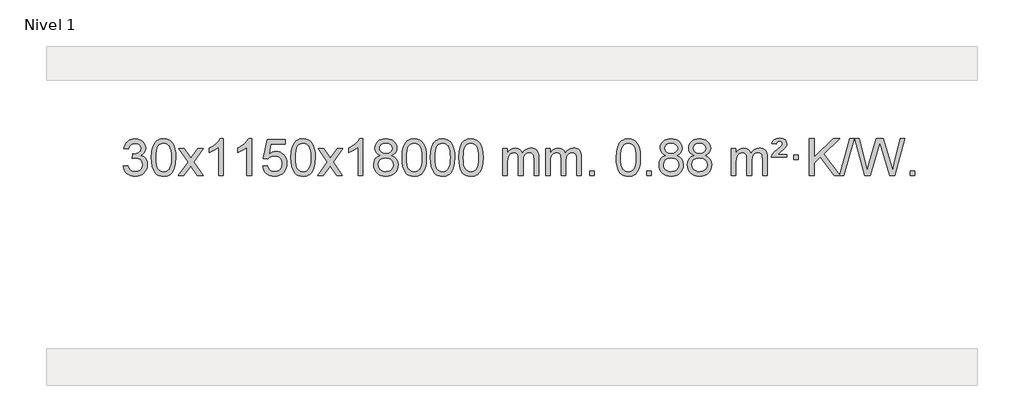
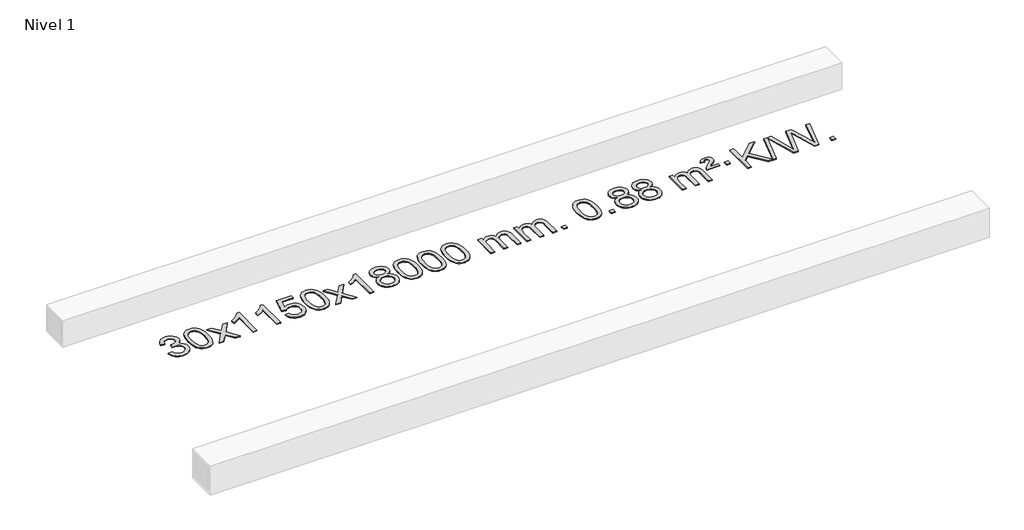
# One storey, part 4 of 4: 1 proxy.
"""IFC4 building model written with IfcOpenShell, lengths in millimetres."""

import ifcopenshell
import ifcopenshell.guid

model = None  # the IFC model being written
_history = None  # IfcOwnerHistory: only IFC2X3 demands one
_inside = {}  # id of a spatial element -> (the spatial element, [elements in it])
_under = {}  # id of a project, library or spatial element -> (it, [spatial elements below it])
_declared = {}  # id of a project -> (the project, [libraries it declares])
_typed = {}  # id of a type object -> (the type object, [elements of that type])
_made_of = {}  # id of a material, layer set ... -> (it, [elements and type objects made of it])


def new_model(schema):
    """Start an empty IFC model of exactly this schema.

    Asked for "IFC4X3", IfcOpenShell would pick the latest addendum, in which some entities
    have other attributes; the version numbers below select the first issue.
    IFC2X3 requires an IfcOwnerHistory on every rooted entity: one is made here for all.
    """
    global model, _history
    if schema == "IFC4X3":
        model = ifcopenshell.file(schema_version=(4, 3, 0, 0))
    else:
        model = ifcopenshell.file(schema=schema)
    _inside.clear()
    _under.clear()
    _declared.clear()
    _typed.clear()
    _made_of.clear()
    _history = None
    if model.schema == "IFC2X3":
        org = make("IfcOrganization", Name="unknown")
        user = make(
            "IfcPersonAndOrganization",
            ThePerson=make("IfcPerson", FamilyName="unknown"),
            TheOrganization=org,
        )
        app = make(
            "IfcApplication",
            ApplicationDeveloper=org,
            Version="unknown",
            ApplicationFullName="unknown",
            ApplicationIdentifier="unknown",
        )
        _history = make(
            "IfcOwnerHistory",
            OwningUser=user,
            OwningApplication=app,
            ChangeAction="ADDED",
            CreationDate=0,
        )
    return model


def make(cls, **values):
    """One entity of the class cls with the attributes given. An attribute that is None is left unset."""
    return model.create_entity(
        cls, **{name: value for name, value in values.items() if value is not None}
    )


def rooted(cls, **values):
    """An entity with a GlobalId (a new one), such as an element, a storey or a relation."""
    return make(cls, GlobalId=ifcopenshell.guid.new(), OwnerHistory=_history, **values)


def si_unit(unit_type, name, prefix=None):
    """IfcSIUnit, for example si_unit("LENGTHUNIT", "METRE", prefix="MILLI")."""
    return make("IfcSIUnit", UnitType=unit_type, Prefix=prefix, Name=name)


def assignment(units):
    """IfcUnitAssignment: the units of a project."""
    return None if units is None else make("IfcUnitAssignment", Units=units)


def point(xyz):
    """IfcCartesianPoint."""
    return None if xyz is None else make("IfcCartesianPoint", Coordinates=xyz)


def direction(xyz):
    """IfcDirection."""
    return None if xyz is None else make("IfcDirection", DirectionRatios=xyz)


def frame(location, z_axis=None, x_axis=None):
    """IfcAxis2Placement3D, a coordinate frame: its origin and axes. An axis left out is left unset."""
    return make(
        "IfcAxis2Placement3D",
        Location=point(location),
        Axis=direction(z_axis),
        RefDirection=direction(x_axis),
    )


def origin():
    """The frame at (0, 0, 0) with its axes left unset."""
    return frame((0.0, 0.0, 0.0))


def origin_with_axes():
    """The frame at (0, 0, 0) with the z axis (0, 0, 1) and the x axis (1, 0, 0) written out."""
    return frame((0.0, 0.0, 0.0), z_axis=(0.0, 0.0, 1.0), x_axis=(1.0, 0.0, 0.0))


def place(relative_to, where):
    """IfcLocalPlacement: puts the frame where relative to a parent placement (None: the world)."""
    return make(
        "IfcLocalPlacement", PlacementRelTo=relative_to, RelativePlacement=where
    )


def context(
    kind, dimensions, precision=None, world=None, true_north=None, identifier=None
):
    """IfcGeometricRepresentationContext, for example the 3D "Model" context."""
    return make(
        "IfcGeometricRepresentationContext",
        ContextIdentifier=identifier,
        ContextType=kind,
        CoordinateSpaceDimension=dimensions,
        Precision=precision,
        WorldCoordinateSystem=world,
        TrueNorth=true_north,
    )


def project(units=None, contexts=None):
    """IfcProject with its units and contexts."""
    return rooted(
        "IfcProject",
        Name="project",
        RepresentationContexts=contexts,
        UnitsInContext=assignment(units),
    )


def spatial(cls, under=None, at=None, **own):
    """A site, building, storey or space (cls), placed at a placement, below another one or the project."""
    s = rooted(cls, ObjectPlacement=at, **own)
    if under is not None:
        _under.setdefault(under.id(), (under, []))[1].append(s)
    return s


def polyline(points):
    """IfcPolyline through the points."""
    return make("IfcPolyline", Points=[point(p) for p in points])


def outline(outer, holes=None, kind="AREA"):
    """IfcArbitraryClosedProfileDef: a profile drawn as a closed curve; with holes, ...WithVoids."""
    if holes is None:
        return make("IfcArbitraryClosedProfileDef", ProfileType=kind, OuterCurve=outer)
    return make(
        "IfcArbitraryProfileDefWithVoids",
        ProfileType=kind,
        OuterCurve=outer,
        InnerCurves=holes,
    )


def extrude(swept, where, along, depth):
    """IfcExtrudedAreaSolid: the profile swept, set in the frame where, extruded along a direction by depth."""
    return make(
        "IfcExtrudedAreaSolid",
        SweptArea=swept,
        Position=where,
        ExtrudedDirection=direction(along),
        Depth=depth,
    )


def shape(context_of_items, identifier, shape_type, items):
    """IfcShapeRepresentation: the items that make up one representation, for example the "Body"."""
    return make(
        "IfcShapeRepresentation",
        ContextOfItems=context_of_items,
        RepresentationIdentifier=identifier,
        RepresentationType=shape_type,
        Items=items,
    )


def made_of(thing, what):
    """Note that an element or type object is made of a material, layer set ...; save() writes the relation."""
    if what is not None:
        _made_of.setdefault(what.id(), (what, []))[1].append(thing)
    return thing


def element(
    cls,
    number,
    at=None,
    inside=None,
    cuts=None,
    type_object=None,
    material=None,
    context=None,
    identifier="Body",
    shape_type=None,
    held_by="IfcProductDefinitionShape",
    body=None,
    shapes=None,
    **own,
):
    """One element of the class cls, such as IfcWall. Its Tag is "e" and its number.

    at: its placement. inside: the storey or other place that contains it. cuts: it is an
    opening in that element (IfcRelVoidsElement). A single representation is given by context,
    identifier, shape_type and body (its items); several are given by shapes. held_by: the class
    of the entity that holds the representations. save() writes the other relations.
    """
    e = rooted(cls, Tag="e%d" % number, ObjectPlacement=at, **own)
    if body is not None:
        shapes = [shape(context, identifier, shape_type, body)]
    if shapes is not None:
        e.Representation = make(held_by, Representations=shapes)
    if inside is not None:
        _inside.setdefault(inside.id(), (inside, []))[1].append(e)
    if cuts is not None:
        rooted(
            "IfcRelVoidsElement", RelatingBuildingElement=cuts, RelatedOpeningElement=e
        )
    if type_object is not None:
        _typed.setdefault(type_object.id(), (type_object, []))[1].append(e)
    return made_of(e, material)


def aggregate(whole, parts):
    """IfcRelAggregates: a whole, such as a stair, and the parts it consists of."""
    return rooted("IfcRelAggregates", RelatingObject=whole, RelatedObjects=parts)


def save(model, path):
    """Write the relations noted so far, then the file.

    IfcRelAggregates (storeys below a building ...), IfcRelContainedInSpatialStructure (elements
    in a storey), IfcRelDefinesByType, IfcRelAssociatesMaterial and IfcRelDeclares: one each for
    every whole, place, type object, material and project.
    """
    for whole, parts in _under.values():
        aggregate(whole, parts)
    for where, things in _inside.values():
        rooted(
            "IfcRelContainedInSpatialStructure",
            RelatedElements=things,
            RelatingStructure=where,
        )
    for kind, things in _typed.values():
        rooted("IfcRelDefinesByType", RelatedObjects=things, RelatingType=kind)
    for what, things in _made_of.values():
        rooted("IfcRelAssociatesMaterial", RelatedObjects=things, RelatingMaterial=what)
    for by, libraries in _declared.values():
        rooted("IfcRelDeclares", RelatingContext=by, RelatedDefinitions=libraries)
    model.write(path)


model = new_model("IFC4")

# Units and contexts
model_context = context("Model", 3, world=origin())
ifc_project = project(units=[si_unit("LENGTHUNIT", "METRE", prefix="MILLI")], contexts=[model_context])

# Site, building, storey
site = spatial("IfcSite", under=ifc_project)
building = spatial("IfcBuilding", under=site)
storey = spatial("IfcBuildingStorey", under=building, Name="Nivel 1", Elevation=0.0)

# Proxy
placement = place(None, origin())
element("IfcBuildingElementProxy", 1, Name="Texto de modelo 1", ObjectType="Texto de modelo 1", at=placement, inside=storey, context=model_context, shape_type="SweptSolid", body=[
    extrude(outline(polyline([(-19164.9669637, 2390.4100258), (-19114.7388086, 2396.6885452), (-19103.4938823, 2365.12427), (-19087.0250316, 2343.8116398), (-19064.5229163, 2331.6715339), (-19035.1781958, 2327.624832), (-19000.744441, 2333.1921129), (-18986.4706196, 2340.1512139), (-18974.1588355, 2349.8939554), (-18957.1626873, 2374.8118292), (-18951.4973046, 2405.0272038), (-18957.1136364, 2433.7097367), (-18973.9626318, 2456.9721415), (-18999.4691168, 2472.3863971), (-19031.0579174, 2477.5244823), (-19066.2764871, 2472.0307778), (-19060.6846808, 2522.2589329), (-19052.6403278, 2521.6703217), (-19022.5475806, 2525.2755653), (-18995.643144, 2536.0912959), (-18984.569896, 2544.270539), (-18976.6604331, 2554.3872938), (-18971.9147553, 2566.4415605), (-18970.3328628, 2580.4333391), (-18974.919125, 2602.1261141), (-18988.6779116, 2619.7231362), (-19009.6717108, 2631.3849954), (-19035.9630107, 2635.2722818), (-19062.3033616, 2631.3482072), (-19083.836721, 2619.5759834), (-19099.5575449, 2599.9556103), (-19108.4602892, 2572.487088), (-19158.6884443, 2578.7656074), (-19152.7348873, 2602.7453821), (-19143.8995881, 2623.86794), (-19132.1825465, 2642.133281), (-19117.5837627, 2657.5414053), (-19100.5630891, 2669.7734816), (-19081.5803781, 2678.510679), (-19060.6356298, 2683.7529974), (-19037.7288443, 2685.5004369), (-19006.1523064, 2682.0546089), (-18977.1509424, 2671.7171248), (-18952.6990525, 2655.4076897), (-18934.7709366, 2634.0460085), (-18923.7712649, 2609.434703), (-18920.1047077, 2583.376395), (-18923.5873239, 2559.0961834), (-18934.0351726, 2537.0723146), (-18951.3011009, 2518.3103328), (-18975.237956, 2503.8157822), (-18943.7963082, 2491.1115907), (-18920.4971152, 2469.4801293), (-18906.0761409, 2440.0986207), (-18901.2691495, 2404.144287), (-18903.6726452, 2378.6623275), (-18910.8831323, 2355.1914562), (-18922.9006109, 2333.7316731), (-18939.7250808, 2314.2829783), (-18960.2222393, 2298.1452214), (-18983.2577835, 2286.6182523), (-19008.8317136, 2279.7020708), (-19036.9440294, 2277.3966769), (-19062.3524125, 2279.3648456), (-19085.5044527, 2285.2693516), (-19106.40015, 2295.110195), (-19125.0395045, 2308.8873757), (-19140.6683579, 2325.7915534), (-19152.5325522, 2345.0133876), (-19160.6320875, 2366.5528785), (-19164.9669637, 2390.4100258)])), origin_with_axes(), (0.0, 0.0, 1.0), 10.0),
    extrude(outline(polyline([(-18857.3195138, 2481.350455), (-18853.6284312, 2545.6684905), (-18842.5551831, 2596.9635034), (-18824.2101343, 2636.0203086), (-18812.3520713, 2651.2536888), (-18798.7036493, 2663.6237209), (-18783.218883, 2673.1947842), (-18765.8517871, 2680.0312579), (-18725.4706068, 2685.5004369), (-18694.5194682, 2682.2630753), (-18666.8056913, 2672.5509907), (-18643.6291256, 2656.7443276), (-18626.2896209, 2635.2232309), (-18613.1930218, 2608.1716415), (-18602.7451732, 2575.7735005), (-18595.9025681, 2534.6320307), (-18593.6216997, 2481.350455), (-18597.2759942, 2417.4003016), (-18608.2388776, 2366.227916), (-18626.4735619, 2327.1343227), (-18638.3040337, 2311.8549571), (-18651.9432587, 2299.4205457), (-18667.4464191, 2289.7851031), (-18684.8686972, 2282.9026441), (-18725.4706068, 2277.3966769), (-18753.1353328, 2279.7879099), (-18777.6607992, 2286.9616088), (-18799.0470058, 2298.9177736), (-18817.2939528, 2315.6564044), (-18834.8051357, 2345.9146985), (-18847.3131236, 2383.6164717), (-18854.8179163, 2428.7617238), (-18857.3195138, 2481.350455)]), holes=[polyline([(-18807.0913588, 2481.4485569), (-18805.6198308, 2437.7840298), (-18801.2052468, 2402.4397671), (-18793.8476069, 2375.4157689), (-18783.5469111, 2356.7120351), (-18771.0879742, 2343.9863837), (-18757.2556112, 2334.8966328), (-18742.049822, 2329.4427822), (-18725.4706068, 2327.624832), (-18708.8913915, 2329.4489136), (-18693.6856024, 2334.9211582), (-18679.8532394, 2344.041566), (-18667.3943025, 2356.8101369), (-18657.0936066, 2375.5445276), (-18649.7359667, 2402.5623944), (-18645.3213828, 2437.8637375), (-18643.8498548, 2481.4485569), (-18645.2723318, 2523.9573215), (-18649.539763, 2558.6792504), (-18656.6521482, 2585.6143438), (-18666.6094875, 2604.7626017), (-18678.859958, 2618.1105868), (-18692.8517365, 2627.6448618), (-18708.5848232, 2633.3654268), (-18726.059218, 2635.2722818), (-18742.5525941, 2633.5922874), (-18757.5008658, 2628.5523041), (-18770.9040332, 2620.1523318), (-18782.7620962, 2608.3923707), (-18793.4061486, 2587.5457243), (-18801.0090431, 2559.4395399), (-18805.5707799, 2524.0738174), (-18807.0913588, 2481.4485569)])]), origin_with_axes(), (0.0, 0.0, 1.0), 10.0),
    extrude(outline(polyline([(-18568.5076222, 2283.6751963), (-18461.1841814, 2432.0052168), (-18562.2291028, 2578.7656074), (-18501.7983537, 2578.7656074), (-18453.0417266, 2508.1322643), (-18430.2820938, 2474.7776301), (-18410.5636189, 2502.0499486), (-18355.0379631, 2578.7656074), (-18294.607214, 2578.7656074), (-18400.7534324, 2432.0052168), (-18298.5312886, 2283.6751963), (-18358.9620377, 2283.6751963), (-18420.4719073, 2372.8497919), (-18431.7536218, 2389.1347016), (-18508.0768731, 2283.6751963), (-18568.5076222, 2283.6751963)])), origin_with_axes(), (0.0, 0.0, 1.0), 10.0),
    extrude(outline(polyline([(-18078.7831102, 2283.6751963), (-18129.0112653, 2283.6751963), (-18129.0112653, 2596.8163506), (-18149.980539, 2579.8569906), (-18176.59067, 2562.9221561), (-18229.4675754, 2537.5628239), (-18229.4675754, 2585.0441268), (-18190.0183628, 2606.5039098), (-18155.8421254, 2632.0349203), (-18128.9009007, 2659.1846115), (-18111.1567258, 2685.5004369), (-18078.7831102, 2685.5004369), (-18078.7831102, 2283.6751963)])), origin_with_axes(), (0.0, 0.0, 1.0), 10.0),
    extrude(outline(polyline([(-17771.1356604, 2283.6751963), (-17821.3638154, 2283.6751963), (-17821.3638154, 2596.8163506), (-17842.3330892, 2579.8569906), (-17868.9432201, 2562.9221561), (-17921.8201256, 2537.5628239), (-17921.8201256, 2585.0441268), (-17882.370913, 2606.5039098), (-17848.1946756, 2632.0349203), (-17821.2534508, 2659.1846115), (-17803.5092759, 2685.5004369), (-17771.1356604, 2685.5004369), (-17771.1356604, 2283.6751963)])), origin_with_axes(), (0.0, 0.0, 1.0), 10.0),
    extrude(outline(polyline([(-17651.8437921, 2390.4100258), (-17601.615637, 2396.6885452), (-17592.3940616, 2366.5344844), (-17576.3053557, 2344.9398112), (-17553.4230956, 2331.9535768), (-17523.8208577, 2327.624832), (-17504.690994, 2329.1300825), (-17487.8174731, 2333.645834), (-17473.2002952, 2341.1720865), (-17460.8394602, 2351.7088399), (-17451.0108795, 2364.7349283), (-17443.9904648, 2379.7291852), (-17438.374133, 2415.6222052), (-17443.6348455, 2449.4182979), (-17450.2107362, 2463.3365), (-17459.4169831, 2475.2681394), (-17471.2842431, 2484.8392026), (-17485.8431731, 2491.6756764), (-17523.0360428, 2497.1448554), (-17547.4020936, 2494.9620889), (-17567.1328313, 2488.4137894), (-17582.8904434, 2478.3828736), (-17595.3371176, 2465.7522585), (-17645.5652727, 2472.0307778), (-17601.615637, 2679.2219175), (-17406.9815361, 2679.2219175), (-17406.9815361, 2628.9937624), (-17561.0014647, 2628.9937624), (-17582.4857732, 2518.3348583), (-17564.7599924, 2531.0390499), (-17546.605016, 2540.1134724), (-17528.0208438, 2545.5581259), (-17509.0074761, 2547.3730104), (-17484.5463891, 2545.1227989), (-17462.0779962, 2538.3721643), (-17441.6022975, 2527.1211066), (-17423.1192929, 2511.3696259), (-17407.8184676, 2492.0803466), (-17396.8893067, 2470.2158933), (-17390.3318101, 2445.7762661), (-17388.1459779, 2418.7614649), (-17390.1141466, 2392.7399451), (-17396.0186526, 2368.5333099), (-17405.859496, 2346.1415591), (-17419.6366767, 2325.5646928), (-17440.5078486, 2304.4911859), (-17464.8616366, 2289.4386809), (-17492.6980409, 2280.4071779), (-17524.0170615, 2277.3966769), (-17549.9374137, 2279.3311231), (-17573.350037, 2285.1344616), (-17594.2549314, 2294.8066923), (-17612.6520968, 2308.3478154), (-17627.9590535, 2325.0833805), (-17639.5933216, 2344.3389373), (-17647.5549011, 2366.1144857), (-17651.8437921, 2390.4100258)])), origin_with_axes(), (0.0, 0.0, 1.0), 10.0),
    extrude(outline(polyline([(-17344.1963422, 2481.350455), (-17340.5052595, 2545.6684905), (-17329.4320115, 2596.9635034), (-17311.0869627, 2636.0203086), (-17299.2288997, 2651.2536888), (-17285.5804777, 2663.6237209), (-17270.0957113, 2673.1947842), (-17252.7286155, 2680.0312579), (-17212.3474351, 2685.5004369), (-17181.3962966, 2682.2630753), (-17153.6825196, 2672.5509907), (-17130.505954, 2656.7443276), (-17113.1664492, 2635.2232309), (-17100.0698502, 2608.1716415), (-17089.6220016, 2575.7735005), (-17082.7793964, 2534.6320307), (-17080.4985281, 2481.350455), (-17084.1528226, 2417.4003016), (-17095.115706, 2366.227916), (-17113.3503902, 2327.1343227), (-17125.1808621, 2311.8549571), (-17138.820087, 2299.4205457), (-17154.3232475, 2289.7851031), (-17171.7455256, 2282.9026441), (-17212.3474351, 2277.3966769), (-17240.0121612, 2279.7879099), (-17264.5376275, 2286.9616088), (-17285.9238342, 2298.9177736), (-17304.1707811, 2315.6564044), (-17321.6819641, 2345.9146985), (-17334.1899519, 2383.6164717), (-17341.6947446, 2428.7617238), (-17344.1963422, 2481.350455)]), holes=[polyline([(-17293.9681871, 2481.4485569), (-17292.4966592, 2437.7840298), (-17288.0820752, 2402.4397671), (-17280.7244353, 2375.4157689), (-17270.4237395, 2356.7120351), (-17257.9648025, 2343.9863837), (-17244.1324395, 2334.8966328), (-17228.9266504, 2329.4427822), (-17212.3474351, 2327.624832), (-17195.7682199, 2329.4489136), (-17180.5624308, 2334.9211582), (-17166.7300677, 2344.041566), (-17154.2711308, 2356.8101369), (-17143.970435, 2375.5445276), (-17136.6127951, 2402.5623944), (-17132.1982111, 2437.8637375), (-17130.7266831, 2481.4485569), (-17132.1491602, 2523.9573215), (-17136.4165913, 2558.6792504), (-17143.5289766, 2585.6143438), (-17153.4863159, 2604.7626017), (-17165.7367864, 2618.1105868), (-17179.7285649, 2627.6448618), (-17195.4616516, 2633.3654268), (-17212.9360463, 2635.2722818), (-17229.4294225, 2633.5922874), (-17244.3776942, 2628.5523041), (-17257.7808616, 2620.1523318), (-17269.6389245, 2608.3923707), (-17280.2829769, 2587.5457243), (-17287.8858715, 2559.4395399), (-17292.4476082, 2524.0738174), (-17293.9681871, 2481.4485569)])]), origin_with_axes(), (0.0, 0.0, 1.0), 10.0),
    extrude(outline(polyline([(-17055.3844505, 2283.6751963), (-16948.0610098, 2432.0052168), (-17049.1059312, 2578.7656074), (-16988.6751821, 2578.7656074), (-16939.918555, 2508.1322643), (-16917.1589222, 2474.7776301), (-16897.4404473, 2502.0499486), (-16841.9147915, 2578.7656074), (-16781.4840424, 2578.7656074), (-16887.6302607, 2432.0052168), (-16785.408117, 2283.6751963), (-16845.8388661, 2283.6751963), (-16907.3487357, 2372.8497919), (-16918.6304502, 2389.1347016), (-16994.9537015, 2283.6751963), (-17055.3844505, 2283.6751963)])), origin_with_axes(), (0.0, 0.0, 1.0), 10.0),
    extrude(outline(polyline([(-16565.6599386, 2283.6751963), (-16615.8880936, 2283.6751963), (-16615.8880936, 2596.8163506), (-16636.8573674, 2579.8569906), (-16663.4674983, 2562.9221561), (-16716.3444038, 2537.5628239), (-16716.3444038, 2585.0441268), (-16676.8951912, 2606.5039098), (-16642.7189538, 2632.0349203), (-16615.777729, 2659.1846115), (-16598.0335541, 2685.5004369), (-16565.6599386, 2685.5004369), (-16565.6599386, 2283.6751963)])), origin_with_axes(), (0.0, 0.0, 1.0), 10.0),
    extrude(outline(polyline([(-16373.1840787, 2504.9930046), (-16400.0762525, 2518.2367564), (-16418.9485989, 2536.1893978), (-16430.0954233, 2558.4830467), (-16433.8110315, 2584.7498212), (-16431.7876805, 2605.2347169), (-16425.7176276, 2624.0150928), (-16415.6008727, 2641.0909487), (-16401.4374159, 2656.4622848), (-16383.9078388, 2669.1664763), (-16363.6927232, 2678.2408989), (-16340.792069, 2683.6855524), (-16315.2058762, 2685.5004369), (-16289.4970561, 2683.6426328), (-16266.4247237, 2678.0692206), (-16245.9888788, 2668.7802002), (-16228.1895216, 2655.7755717), (-16213.7685474, 2640.1037987), (-16203.4678516, 2622.8133449), (-16197.2874341, 2603.9042104), (-16195.2272949, 2583.376395), (-16198.8938521, 2557.9557492), (-16209.8935238, 2536.042245), (-16228.3489372, 2518.1999682), (-16254.3827197, 2504.9930046), (-16223.4683694, 2489.0637142), (-16200.966254, 2465.6051057), (-16187.2442556, 2435.7453504), (-16182.6702561, 2400.6126198), (-16184.9388617, 2375.559856), (-16191.7446787, 2352.5917567), (-16203.0877068, 2331.7083221), (-16218.9679463, 2312.9095522), (-16238.5515312, 2297.3726693), (-16261.0045956, 2286.2748957), (-16286.3271396, 2279.6162316), (-16314.5191632, 2277.3966769), (-16342.7111867, 2279.6254287), (-16368.0337307, 2286.3116839), (-16390.4867952, 2297.4554427), (-16410.0703801, 2313.056705), (-16425.9506195, 2331.9872993), (-16437.2936477, 2353.1190543), (-16444.0994646, 2376.4519698), (-16446.3680703, 2401.986046), (-16441.6101298, 2438.4799399), (-16427.3363084, 2468.4991107), (-16404.28237, 2491.0134888), (-16373.1840787, 2504.9930046)]), holes=[polyline([(-16383.5828764, 2583.2782932), (-16379.1315043, 2561.3525263), (-16365.7773878, 2543.8413433), (-16343.9129346, 2532.363425), (-16313.930552, 2528.5374523), (-16284.6471452, 2532.3388996), (-16263.1137857, 2543.7432414), (-16249.8700339, 2560.6658132), (-16245.45545, 2581.0219503), (-16250.0171867, 2602.1506395), (-16263.7023969, 2619.6250343), (-16285.530062, 2631.3604699), (-16314.5191632, 2635.2722818), (-16343.6922054, 2631.4463091), (-16365.4830822, 2619.9683908), (-16379.0579279, 2603.1439209), (-16383.5828764, 2583.2782932)]), polyline([(-16396.1399152, 2403.7518795), (-16394.0429878, 2384.5361766), (-16387.7522057, 2365.9336104), (-16376.1393974, 2349.7100144), (-16358.0763914, 2337.6312223), (-16336.4449301, 2330.1264296), (-16314.1267557, 2327.624832), (-16279.9382556, 2332.8855445), (-16266.044579, 2339.4614352), (-16254.2846178, 2348.6676821), (-16238.2449629, 2372.5677491), (-16232.8984112, 2402.1822497), (-16238.4166411, 2432.2995224), (-16254.9713309, 2456.7268868), (-16267.0501231, 2466.1691914), (-16281.2135799, 2472.9136946), (-16315.7944874, 2478.3092972), (-16349.5047409, 2472.987271), (-16363.2420678, 2466.3347383), (-16374.9008613, 2457.0211924), (-16390.8301517, 2433.0598118), (-16396.1399152, 2403.7518795)])]), origin_with_axes(), (0.0, 0.0, 1.0), 10.0),
    extrude(outline(polyline([(-16138.7206204, 2481.350455), (-16135.0295377, 2545.6684905), (-16123.9562897, 2596.9635034), (-16105.6112409, 2636.0203086), (-16093.7531779, 2651.2536888), (-16080.1047559, 2663.6237209), (-16064.6199895, 2673.1947842), (-16047.2528937, 2680.0312579), (-16006.8717134, 2685.5004369), (-15975.9205748, 2682.2630753), (-15948.2067979, 2672.5509907), (-15925.0302322, 2656.7443276), (-15907.6907275, 2635.2232309), (-15894.5941284, 2608.1716415), (-15884.1462798, 2575.7735005), (-15877.3036746, 2534.6320307), (-15875.0228063, 2481.350455), (-15878.6771008, 2417.4003016), (-15889.6399842, 2366.227916), (-15907.8746684, 2327.1343227), (-15919.7051403, 2311.8549571), (-15933.3443652, 2299.4205457), (-15948.8475257, 2289.7851031), (-15966.2698038, 2282.9026441), (-16006.8717134, 2277.3966769), (-16034.5364394, 2279.7879099), (-16059.0619057, 2286.9616088), (-16080.4481124, 2298.9177736), (-16098.6950593, 2315.6564044), (-16116.2062423, 2345.9146985), (-16128.7142302, 2383.6164717), (-16136.2190229, 2428.7617238), (-16138.7206204, 2481.350455)]), holes=[polyline([(-16088.4924653, 2481.4485569), (-16087.0209374, 2437.7840298), (-16082.6063534, 2402.4397671), (-16075.2487135, 2375.4157689), (-16064.9480177, 2356.7120351), (-16052.4890808, 2343.9863837), (-16038.6567177, 2334.8966328), (-16023.4509286, 2329.4427822), (-16006.8717134, 2327.624832), (-15990.2924981, 2329.4489136), (-15975.086709, 2334.9211582), (-15961.2543459, 2344.041566), (-15948.795409, 2356.8101369), (-15938.4947132, 2375.5445276), (-15931.1370733, 2402.5623944), (-15926.7224893, 2437.8637375), (-15925.2509614, 2481.4485569), (-15926.6734384, 2523.9573215), (-15930.9408695, 2558.6792504), (-15938.0532548, 2585.6143438), (-15948.0105941, 2604.7626017), (-15960.2610646, 2618.1105868), (-15974.2528431, 2627.6448618), (-15989.9859298, 2633.3654268), (-16007.4603245, 2635.2722818), (-16023.9537007, 2633.5922874), (-16038.9019724, 2628.5523041), (-16052.3051398, 2620.1523318), (-16064.1632027, 2608.3923707), (-16074.8072551, 2587.5457243), (-16082.4101497, 2559.4395399), (-16086.9718864, 2524.0738174), (-16088.4924653, 2481.4485569)])]), origin_with_axes(), (0.0, 0.0, 1.0), 10.0),
    extrude(outline(polyline([(-15831.0731706, 2481.350455), (-15827.3820879, 2545.6684905), (-15816.3088398, 2596.9635034), (-15797.963791, 2636.0203086), (-15786.105728, 2651.2536888), (-15772.457306, 2663.6237209), (-15756.9725397, 2673.1947842), (-15739.6054439, 2680.0312579), (-15699.2242635, 2685.5004369), (-15668.273125, 2682.2630753), (-15640.559348, 2672.5509907), (-15617.3827823, 2656.7443276), (-15600.0432776, 2635.2232309), (-15586.9466786, 2608.1716415), (-15576.4988299, 2575.7735005), (-15569.6562248, 2534.6320307), (-15567.3753564, 2481.350455), (-15571.0296509, 2417.4003016), (-15581.9925344, 2366.227916), (-15600.2272186, 2327.1343227), (-15612.0576904, 2311.8549571), (-15625.6969154, 2299.4205457), (-15641.2000758, 2289.7851031), (-15658.622354, 2282.9026441), (-15699.2242635, 2277.3966769), (-15726.8889896, 2279.7879099), (-15751.4144559, 2286.9616088), (-15772.8006626, 2298.9177736), (-15791.0476095, 2315.6564044), (-15808.5587925, 2345.9146985), (-15821.0667803, 2383.6164717), (-15828.571573, 2428.7617238), (-15831.0731706, 2481.350455)]), holes=[polyline([(-15780.8450155, 2481.4485569), (-15779.3734875, 2437.7840298), (-15774.9589036, 2402.4397671), (-15767.6012637, 2375.4157689), (-15757.3005678, 2356.7120351), (-15744.8416309, 2343.9863837), (-15731.0092679, 2334.8966328), (-15715.8034788, 2329.4427822), (-15699.2242635, 2327.624832), (-15682.6450483, 2329.4489136), (-15667.4392591, 2334.9211582), (-15653.6068961, 2344.041566), (-15641.1479592, 2356.8101369), (-15630.8472633, 2375.5445276), (-15623.4896234, 2402.5623944), (-15619.0750395, 2437.8637375), (-15617.6035115, 2481.4485569), (-15619.0259886, 2523.9573215), (-15623.2934197, 2558.6792504), (-15630.405805, 2585.6143438), (-15640.3631443, 2604.7626017), (-15652.6136147, 2618.1105868), (-15666.6053933, 2627.6448618), (-15682.3384799, 2633.3654268), (-15699.8128747, 2635.2722818), (-15716.3062508, 2633.5922874), (-15731.2545226, 2628.5523041), (-15744.6576899, 2620.1523318), (-15756.5157529, 2608.3923707), (-15767.1598053, 2587.5457243), (-15774.7626999, 2559.4395399), (-15779.3244366, 2524.0738174), (-15780.8450155, 2481.4485569)])]), origin_with_axes(), (0.0, 0.0, 1.0), 10.0),
    extrude(outline(polyline([(-15523.4257208, 2481.350455), (-15519.7346381, 2545.6684905), (-15508.66139, 2596.9635034), (-15490.3163412, 2636.0203086), (-15478.4582782, 2651.2536888), (-15464.8098562, 2663.6237209), (-15449.3250899, 2673.1947842), (-15431.957994, 2680.0312579), (-15391.5768137, 2685.5004369), (-15360.6256752, 2682.2630753), (-15332.9118982, 2672.5509907), (-15309.7353325, 2656.7443276), (-15292.3958278, 2635.2232309), (-15279.2992288, 2608.1716415), (-15268.8513801, 2575.7735005), (-15262.008775, 2534.6320307), (-15259.7279066, 2481.350455), (-15263.3822011, 2417.4003016), (-15274.3450846, 2366.227916), (-15292.5797688, 2327.1343227), (-15304.4102406, 2311.8549571), (-15318.0494656, 2299.4205457), (-15333.552626, 2289.7851031), (-15350.9749041, 2282.9026441), (-15391.5768137, 2277.3966769), (-15419.2415397, 2279.7879099), (-15443.7670061, 2286.9616088), (-15465.1532127, 2298.9177736), (-15483.4001597, 2315.6564044), (-15500.9113427, 2345.9146985), (-15513.4193305, 2383.6164717), (-15520.9241232, 2428.7617238), (-15523.4257208, 2481.350455)]), holes=[polyline([(-15473.1975657, 2481.4485569), (-15471.7260377, 2437.7840298), (-15467.3114538, 2402.4397671), (-15459.9538139, 2375.4157689), (-15449.653118, 2356.7120351), (-15437.1941811, 2343.9863837), (-15423.3618181, 2334.8966328), (-15408.1560289, 2329.4427822), (-15391.5768137, 2327.624832), (-15374.9975984, 2329.4489136), (-15359.7918093, 2334.9211582), (-15345.9594463, 2344.041566), (-15333.5005094, 2356.8101369), (-15323.1998135, 2375.5445276), (-15315.8421736, 2402.5623944), (-15311.4275897, 2437.8637375), (-15309.9560617, 2481.4485569), (-15311.3785387, 2523.9573215), (-15315.6459699, 2558.6792504), (-15322.7583551, 2585.6143438), (-15332.7156945, 2604.7626017), (-15344.9661649, 2618.1105868), (-15358.9579434, 2627.6448618), (-15374.6910301, 2633.3654268), (-15392.1654249, 2635.2722818), (-15408.658801, 2633.5922874), (-15423.6070727, 2628.5523041), (-15437.0102401, 2620.1523318), (-15448.8683031, 2608.3923707), (-15459.5123555, 2587.5457243), (-15467.11525, 2559.4395399), (-15471.6769868, 2524.0738174), (-15473.1975657, 2481.4485569)])]), origin_with_axes(), (0.0, 0.0, 1.0), 10.0),
    extrude(outline(polyline([(-15046.2582475, 2283.6751963), (-15046.2582475, 2578.7656074), (-14996.0300925, 2578.7656074), (-14996.0300925, 2530.205184), (-14980.9224052, 2552.5110956), (-14961.4982359, 2569.9854904), (-14938.419772, 2581.2794677), (-14912.3492013, 2585.0441268), (-14884.4146951, 2581.2058913), (-14862.0229444, 2569.6911848), (-14845.2965763, 2551.2602969), (-14834.3582183, 2526.6735169), (-14816.0499577, 2552.2106587), (-14795.1665231, 2570.4514743), (-14771.7079145, 2581.3959636), (-14745.674132, 2585.0441268), (-14725.5663153, 2583.5266135), (-14707.9171766, 2578.9740738), (-14692.7267159, 2571.3865077), (-14679.9949331, 2560.7639151), (-14669.9302949, 2546.9836687), (-14662.7412676, 2529.9231411), (-14658.4278512, 2509.5823325), (-14656.9900457, 2485.9612427), (-14656.9900457, 2283.6751963), (-14707.2182008, 2283.6751963), (-14707.2182008, 2464.3788323), (-14708.3831604, 2489.4315962), (-14711.8780394, 2506.3173798), (-14718.4263389, 2517.8811372), (-14728.7515602, 2526.9678224), (-14742.0321003, 2532.8539344), (-14757.4463559, 2534.8159717), (-14784.6573608, 2529.7882511), (-14806.8406451, 2514.7050893), (-14815.4460181, 2503.1352005), (-14821.5927131, 2488.5364167), (-14826.5100691, 2450.2521637), (-14826.5100691, 2283.6751963), (-14876.7382242, 2283.6751963), (-14876.7382242, 2469.9706387), (-14879.6444919, 2498.3711287), (-14888.3632952, 2518.6291639), (-14903.7039744, 2530.7692697), (-14926.4758699, 2534.8159717), (-14945.8264629, 2532.1181704), (-14963.6564769, 2524.0247665), (-14978.3717567, 2510.7319637), (-14988.378147, 2492.4359658), (-14994.1171061, 2467.0521082), (-14996.0300925, 2432.4957261), (-14996.0300925, 2283.6751963), (-15046.2582475, 2283.6751963)])), origin_with_axes(), (0.0, 0.0, 1.0), 10.0),
    extrude(outline(polyline([(-14581.6478131, 2283.6751963), (-14581.6478131, 2578.7656074), (-14531.419658, 2578.7656074), (-14531.419658, 2530.205184), (-14516.3119708, 2552.5110956), (-14496.8878014, 2569.9854904), (-14473.8093376, 2581.2794677), (-14447.7387669, 2585.0441268), (-14419.8042607, 2581.2058913), (-14397.4125099, 2569.6911848), (-14380.6861419, 2551.2602969), (-14369.7477839, 2526.6735169), (-14351.4395233, 2552.2106587), (-14330.5560887, 2570.4514743), (-14307.0974801, 2581.3959636), (-14281.0636976, 2585.0441268), (-14260.9558809, 2583.5266135), (-14243.3067421, 2578.9740738), (-14228.1162814, 2571.3865077), (-14215.3844987, 2560.7639151), (-14205.3198605, 2546.9836687), (-14198.1308331, 2529.9231411), (-14193.8174167, 2509.5823325), (-14192.3796113, 2485.9612427), (-14192.3796113, 2283.6751963), (-14242.6077663, 2283.6751963), (-14242.6077663, 2464.3788323), (-14243.772726, 2489.4315962), (-14247.267605, 2506.3173798), (-14253.8159045, 2517.8811372), (-14264.1411258, 2526.9678224), (-14277.4216658, 2532.8539344), (-14292.8359214, 2534.8159717), (-14320.0469263, 2529.7882511), (-14342.2302106, 2514.7050893), (-14350.8355836, 2503.1352005), (-14356.9822786, 2488.5364167), (-14361.8996347, 2450.2521637), (-14361.8996347, 2283.6751963), (-14412.1277897, 2283.6751963), (-14412.1277897, 2469.9706387), (-14415.0340575, 2498.3711287), (-14423.7528608, 2518.6291639), (-14439.09354, 2530.7692697), (-14461.8654355, 2534.8159717), (-14481.2160284, 2532.1181704), (-14499.0460425, 2524.0247665), (-14513.7613223, 2510.7319637), (-14523.7677125, 2492.4359658), (-14529.5066717, 2467.0521082), (-14531.419658, 2432.4957261), (-14531.419658, 2283.6751963), (-14581.6478131, 2283.6751963)])), origin_with_axes(), (0.0, 0.0, 1.0), 10.0),
    extrude(outline(polyline([(-14104.4803399, 2283.6751963), (-14104.4803399, 2333.9033514), (-14054.2521848, 2333.9033514), (-14054.2521848, 2283.6751963), (-14104.4803399, 2283.6751963)])), origin_with_axes(), (0.0, 0.0, 1.0), 10.0),
    extrude(outline(polyline([(-13815.6684482, 2481.350455), (-13811.9773655, 2545.6684905), (-13800.9041175, 2596.9635034), (-13782.5590686, 2636.0203086), (-13770.7010057, 2651.2536888), (-13757.0525836, 2663.6237209), (-13741.5678173, 2673.1947842), (-13724.2007215, 2680.0312579), (-13683.8195411, 2685.5004369), (-13652.8684026, 2682.2630753), (-13625.1546256, 2672.5509907), (-13601.9780599, 2656.7443276), (-13584.6385552, 2635.2232309), (-13571.5419562, 2608.1716415), (-13561.0941075, 2575.7735005), (-13554.2515024, 2534.6320307), (-13551.9706341, 2481.350455), (-13555.6249286, 2417.4003016), (-13566.587812, 2366.227916), (-13584.8224962, 2327.1343227), (-13596.6529681, 2311.8549571), (-13610.292193, 2299.4205457), (-13625.7953535, 2289.7851031), (-13643.2176316, 2282.9026441), (-13683.8195411, 2277.3966769), (-13711.4842672, 2279.7879099), (-13736.0097335, 2286.9616088), (-13757.3959402, 2298.9177736), (-13775.6428871, 2315.6564044), (-13793.1540701, 2345.9146985), (-13805.6620579, 2383.6164717), (-13813.1668506, 2428.7617238), (-13815.6684482, 2481.350455)]), holes=[polyline([(-13765.4402931, 2481.4485569), (-13763.9687652, 2437.7840298), (-13759.5541812, 2402.4397671), (-13752.1965413, 2375.4157689), (-13741.8958454, 2356.7120351), (-13729.4369085, 2343.9863837), (-13715.6045455, 2334.8966328), (-13700.3987564, 2329.4427822), (-13683.8195411, 2327.624832), (-13667.2403259, 2329.4489136), (-13652.0345368, 2334.9211582), (-13638.2021737, 2344.041566), (-13625.7432368, 2356.8101369), (-13615.442541, 2375.5445276), (-13608.0849011, 2402.5623944), (-13603.6703171, 2437.8637375), (-13602.1987891, 2481.4485569), (-13603.6212662, 2523.9573215), (-13607.8886973, 2558.6792504), (-13615.0010826, 2585.6143438), (-13624.9584219, 2604.7626017), (-13637.2088924, 2618.1105868), (-13651.2006709, 2627.6448618), (-13666.9337576, 2633.3654268), (-13684.4081523, 2635.2722818), (-13700.9015285, 2633.5922874), (-13715.8498002, 2628.5523041), (-13729.2529675, 2620.1523318), (-13741.1110305, 2608.3923707), (-13751.7550829, 2587.5457243), (-13759.3579775, 2559.4395399), (-13763.9197142, 2524.0738174), (-13765.4402931, 2481.4485569)])]), origin_with_axes(), (0.0, 0.0, 1.0), 10.0),
    extrude(outline(polyline([(-13482.9069208, 2283.6751963), (-13482.9069208, 2333.9033514), (-13432.6787658, 2333.9033514), (-13432.6787658, 2283.6751963), (-13482.9069208, 2283.6751963)])), origin_with_axes(), (0.0, 0.0, 1.0), 10.0),
    extrude(outline(polyline([(-13277.8740222, 2504.9930046), (-13304.766196, 2518.2367564), (-13323.6385424, 2536.1893978), (-13334.7853669, 2558.4830467), (-13338.500975, 2584.7498212), (-13336.477624, 2605.2347169), (-13330.4075711, 2624.0150928), (-13320.2908162, 2641.0909487), (-13306.1273594, 2656.4622848), (-13288.5977824, 2669.1664763), (-13268.3826667, 2678.2408989), (-13245.4820125, 2683.6855524), (-13219.8958198, 2685.5004369), (-13194.1869997, 2683.6426328), (-13171.1146672, 2678.0692206), (-13150.6788224, 2668.7802002), (-13132.8794652, 2655.7755717), (-13118.458491, 2640.1037987), (-13108.1577951, 2622.8133449), (-13101.9773776, 2603.9042104), (-13099.9172384, 2583.376395), (-13103.5837956, 2557.9557492), (-13114.5834673, 2536.042245), (-13133.0388807, 2518.1999682), (-13159.0726632, 2504.9930046), (-13128.1583129, 2489.0637142), (-13105.6561975, 2465.6051057), (-13091.9341991, 2435.7453504), (-13087.3601996, 2400.6126198), (-13089.6288053, 2375.559856), (-13096.4346222, 2352.5917567), (-13107.7776504, 2331.7083221), (-13123.6578898, 2312.9095522), (-13143.2414747, 2297.3726693), (-13165.6945391, 2286.2748957), (-13191.0170831, 2279.6162316), (-13219.2091067, 2277.3966769), (-13247.4011303, 2279.6254287), (-13272.7236743, 2286.3116839), (-13295.1767387, 2297.4554427), (-13314.7603236, 2313.056705), (-13330.640563, 2331.9872993), (-13341.9835912, 2353.1190543), (-13348.7894081, 2376.4519698), (-13351.0580138, 2401.986046), (-13346.3000733, 2438.4799399), (-13332.0262519, 2468.4991107), (-13308.9723135, 2491.0134888), (-13277.8740222, 2504.9930046)]), holes=[polyline([(-13300.8298587, 2403.7518795), (-13298.7329313, 2384.5361766), (-13292.4421492, 2365.9336104), (-13280.8293409, 2349.7100144), (-13262.7663349, 2337.6312223), (-13241.1348736, 2330.1264296), (-13218.8166992, 2327.624832), (-13184.6281992, 2332.8855445), (-13170.7345225, 2339.4614352), (-13158.9745614, 2348.6676821), (-13142.9349064, 2372.5677491), (-13137.5883547, 2402.1822497), (-13143.1065846, 2432.2995224), (-13159.6612744, 2456.7268868), (-13171.7400666, 2466.1691914), (-13185.9035234, 2472.9136946), (-13220.4844309, 2478.3092972), (-13254.1946844, 2472.987271), (-13267.9320113, 2466.3347383), (-13279.5908048, 2457.0211924), (-13295.5200952, 2433.0598118), (-13300.8298587, 2403.7518795)]), polyline([(-13288.2728199, 2583.2782932), (-13283.8214478, 2561.3525263), (-13270.4673314, 2543.8413433), (-13248.6028781, 2532.363425), (-13218.6204955, 2528.5374523), (-13189.3370887, 2532.3388996), (-13167.8037292, 2543.7432414), (-13154.5599774, 2560.6658132), (-13150.1453935, 2581.0219503), (-13154.7071302, 2602.1506395), (-13168.3923404, 2619.6250343), (-13190.2200055, 2631.3604699), (-13219.2091067, 2635.2722818), (-13248.3821489, 2631.4463091), (-13270.1730258, 2619.9683908), (-13283.7478714, 2603.1439209), (-13288.2728199, 2583.2782932)])]), origin_with_axes(), (0.0, 0.0, 1.0), 10.0),
    extrude(outline(polyline([(-12970.2265724, 2504.9930046), (-12997.1187462, 2518.2367564), (-13015.9910926, 2536.1893978), (-13027.137917, 2558.4830467), (-13030.8535252, 2584.7498212), (-13028.8301742, 2605.2347169), (-13022.7601213, 2624.0150928), (-13012.6433664, 2641.0909487), (-12998.4799096, 2656.4622848), (-12980.9503325, 2669.1664763), (-12960.7352169, 2678.2408989), (-12937.8345627, 2683.6855524), (-12912.2483699, 2685.5004369), (-12886.5395498, 2683.6426328), (-12863.4672174, 2678.0692206), (-12843.0313725, 2668.7802002), (-12825.2320153, 2655.7755717), (-12810.8110411, 2640.1037987), (-12800.5103453, 2622.8133449), (-12794.3299277, 2603.9042104), (-12792.2697886, 2583.376395), (-12795.9363458, 2557.9557492), (-12806.9360174, 2536.042245), (-12825.3914309, 2518.1999682), (-12851.4252134, 2504.9930046), (-12820.5108631, 2489.0637142), (-12798.0087477, 2465.6051057), (-12784.2867493, 2435.7453504), (-12779.7127498, 2400.6126198), (-12781.9813554, 2375.559856), (-12788.7871723, 2352.5917567), (-12800.1302005, 2331.7083221), (-12816.01044, 2312.9095522), (-12835.5940249, 2297.3726693), (-12858.0470893, 2286.2748957), (-12883.3696333, 2279.6162316), (-12911.5616569, 2277.3966769), (-12939.7536804, 2279.6254287), (-12965.0762244, 2286.3116839), (-12987.5292889, 2297.4554427), (-13007.1128737, 2313.056705), (-13022.9931132, 2331.9872993), (-13034.3361414, 2353.1190543), (-13041.1419583, 2376.4519698), (-13043.4105639, 2401.986046), (-13038.6526235, 2438.4799399), (-13024.3788021, 2468.4991107), (-13001.3248637, 2491.0134888), (-12970.2265724, 2504.9930046)]), holes=[polyline([(-12980.6253701, 2583.2782932), (-12976.173998, 2561.3525263), (-12962.8198815, 2543.8413433), (-12940.9554283, 2532.363425), (-12910.9730457, 2528.5374523), (-12881.6896389, 2532.3388996), (-12860.1562794, 2543.7432414), (-12846.9125276, 2560.6658132), (-12842.4979436, 2581.0219503), (-12847.0596804, 2602.1506395), (-12860.7448906, 2619.6250343), (-12882.5725556, 2631.3604699), (-12911.5616569, 2635.2722818), (-12940.7346991, 2631.4463091), (-12962.5255759, 2619.9683908), (-12976.1004216, 2603.1439209), (-12980.6253701, 2583.2782932)]), polyline([(-12993.1824089, 2403.7518795), (-12991.0854815, 2384.5361766), (-12984.7946994, 2365.9336104), (-12973.1818911, 2349.7100144), (-12955.1188851, 2337.6312223), (-12933.4874238, 2330.1264296), (-12911.1692494, 2327.624832), (-12876.9807493, 2332.8855445), (-12863.0870726, 2339.4614352), (-12851.3271115, 2348.6676821), (-12835.2874565, 2372.5677491), (-12829.9409049, 2402.1822497), (-12835.4591348, 2432.2995224), (-12852.0138246, 2456.7268868), (-12864.0926168, 2466.1691914), (-12878.2560736, 2472.9136946), (-12912.8369811, 2478.3092972), (-12946.5472346, 2472.987271), (-12960.2845614, 2466.3347383), (-12971.943355, 2457.0211924), (-12987.8726454, 2433.0598118), (-12993.1824089, 2403.7518795)])]), origin_with_axes(), (0.0, 0.0, 1.0), 10.0),
    extrude(outline(polyline([(-12566.2430907, 2283.6751963), (-12566.2430907, 2578.7656074), (-12516.0149357, 2578.7656074), (-12516.0149357, 2530.205184), (-12500.9072484, 2552.5110956), (-12481.483079, 2569.9854904), (-12458.4046152, 2581.2794677), (-12432.3340445, 2585.0441268), (-12404.3995383, 2581.2058913), (-12382.0077875, 2569.6911848), (-12365.2814195, 2551.2602969), (-12354.3430615, 2526.6735169), (-12336.0348009, 2552.2106587), (-12315.1513663, 2570.4514743), (-12291.6927577, 2581.3959636), (-12265.6589752, 2585.0441268), (-12245.5511585, 2583.5266135), (-12227.9020198, 2578.9740738), (-12212.711559, 2571.3865077), (-12199.9797763, 2560.7639151), (-12189.9151381, 2546.9836687), (-12182.7261108, 2529.9231411), (-12178.4126944, 2509.5823325), (-12176.9748889, 2485.9612427), (-12176.9748889, 2283.6751963), (-12227.203044, 2283.6751963), (-12227.203044, 2464.3788323), (-12228.3680036, 2489.4315962), (-12231.8628826, 2506.3173798), (-12238.4111821, 2517.8811372), (-12248.7364034, 2526.9678224), (-12262.0169434, 2532.8539344), (-12277.431199, 2534.8159717), (-12304.642204, 2529.7882511), (-12326.8254883, 2514.7050893), (-12335.4308613, 2503.1352005), (-12341.5775563, 2488.5364167), (-12346.4949123, 2450.2521637), (-12346.4949123, 2283.6751963), (-12396.7230673, 2283.6751963), (-12396.7230673, 2469.9706387), (-12399.6293351, 2498.3711287), (-12408.3481384, 2518.6291639), (-12423.6888176, 2530.7692697), (-12446.4607131, 2534.8159717), (-12465.811306, 2532.1181704), (-12483.6413201, 2524.0247665), (-12498.3565999, 2510.7319637), (-12508.3629902, 2492.4359658), (-12514.1019493, 2467.0521082), (-12516.0149357, 2432.4957261), (-12516.0149357, 2283.6751963), (-12566.2430907, 2283.6751963)])), origin_with_axes(), (0.0, 0.0, 1.0), 10.0),
    extrude(outline(polyline([(-12133.0252532, 2484.5878166), (-12129.1992805, 2500.4067424), (-12120.8606219, 2516.2747191), (-12099.3517879, 2541.4133221), (-12067.3951053, 2569.1516246), (-12023.2492658, 2606.5284353), (-12016.1123551, 2618.0554045), (-12013.7333849, 2629.8766792), (-12015.6218458, 2641.9677341), (-12021.2872285, 2651.7533952), (-12030.6559567, 2658.2281183), (-12043.6544538, 2660.3863594), (-12056.0888653, 2658.7676786), (-12064.9425586, 2653.9116363), (-12071.3682308, 2644.4448062), (-12076.5185787, 2628.9937624), (-12126.7467338, 2635.2722818), (-12115.9064777, 2660.4844612), (-12099.2782115, 2678.0446951), (-12075.5130346, 2688.345391), (-12043.2620464, 2691.7789563), (-12007.479391, 2687.6464152), (-11982.7331954, 2675.248792), (-11968.3122212, 2656.9160059), (-11963.5052298, 2634.9779762), (-11967.6009827, 2612.0711907), (-11979.8882413, 2590.4397294), (-12000.4160567, 2570.6231525), (-12036.8854251, 2542.566019), (-12062.490012, 2515.9804135), (-11963.5052298, 2515.9804135), (-11963.5052298, 2484.5878166), (-12133.0252532, 2484.5878166)])), origin_with_axes(), (0.0, 0.0, 1.0), 10.0),
    extrude(outline(polyline([(-11888.1629972, 2459.4737391), (-11888.1629972, 2509.7018941), (-11837.9348421, 2509.7018941), (-11837.9348421, 2459.4737391), (-11888.1629972, 2459.4737391)])), origin_with_axes(), (0.0, 0.0, 1.0), 10.0),
    extrude(outline(polyline([(-11447.2932142, 2283.6751963), (-11600.7245317, 2486.3536502), (-11668.4148188, 2421.8026228), (-11668.4148188, 2283.6751963), (-11718.6429738, 2283.6751963), (-11718.6429738, 2685.5004369), (-11668.4148188, 2685.5004369), (-11668.4148188, 2488.8061968), (-11462.4009015, 2685.5004369), (-11392.1599659, 2685.5004369), (-11565.1135545, 2520.2968956), (-11390.4599447, 2289.7197161), (-11279.1466169, 2685.5004369), (-11233.8235551, 2685.5004369), (-11346.836904, 2283.6751963), (-11385.8814465, 2283.6751963), (-11392.1599659, 2283.6751963), (-11447.2932142, 2283.6751963)])), origin_with_axes(), (0.0, 0.0, 1.0), 10.0),
    extrude(outline(polyline([(-11119.3386782, 2283.6751963), (-11228.9184619, 2685.5004369), (-11177.1206769, 2685.5004369), (-11113.5506682, 2421.4102153), (-11093.9302951, 2339.8875652), (-11072.9364959, 2411.9924362), (-10993.2777812, 2685.5004369), (-10918.6222617, 2685.5004369), (-10860.7421611, 2487.236567), (-10835.9469146, 2413.6601679), (-10817.6754422, 2339.8875652), (-10798.6436803, 2419.0557705), (-10734.4850603, 2685.5004369), (-10682.6872754, 2685.5004369), (-10792.3651609, 2283.6751963), (-10846.0268813, 2283.6751963), (-10942.3629131, 2593.6770909), (-10955.8028686, 2636.9400135), (-10970.9105559, 2584.847923), (-11058.7117254, 2283.6751963), (-11119.3386782, 2283.6751963)])), origin_with_axes(), (0.0, 0.0, 1.0), 10.0),
    extrude(outline(polyline([(-10626.180601, 2283.6751963), (-10626.180601, 2333.9033514), (-10575.9524459, 2333.9033514), (-10575.9524459, 2283.6751963), (-10626.180601, 2283.6751963)])), origin_with_axes(), (0.0, 0.0, 1.0), 10.0),
])

save(model, "model.ifc")
